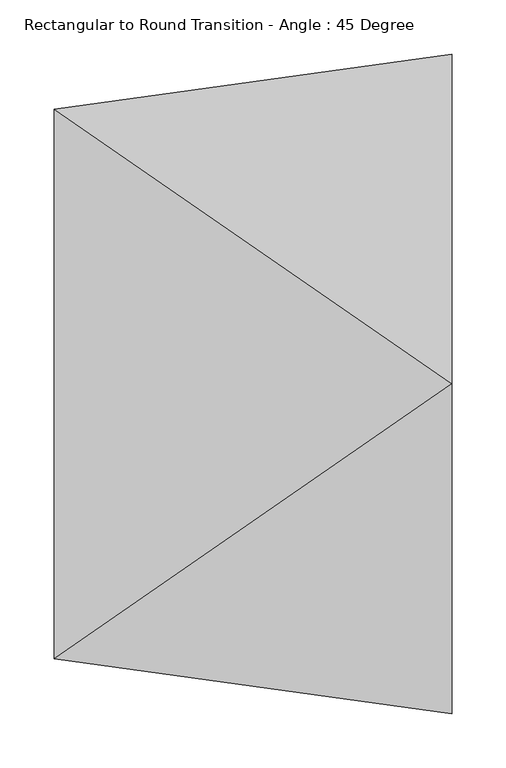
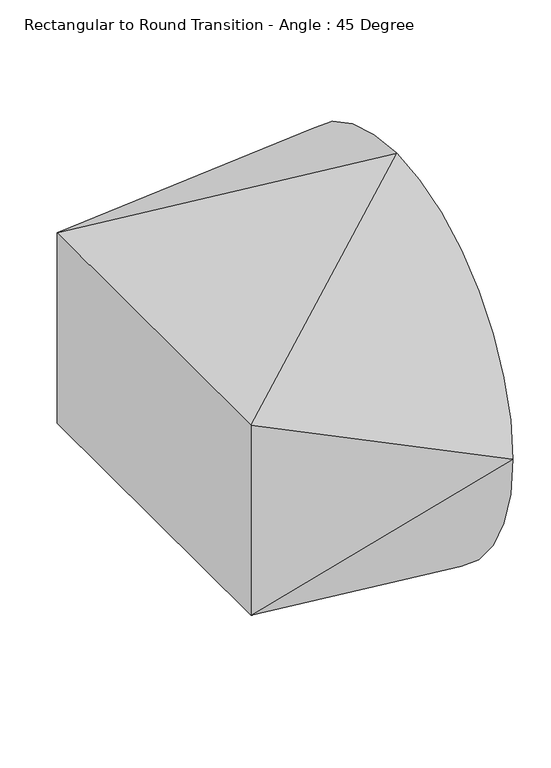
"""IFC4 building model written with IfcOpenShell, lengths in millimetres: duct fitting geometry, Rectangular to Round Transition - Angle : 45 Degree."""

from ifc_helpers import new_model, si_unit, frame, origin, place, context, project, spatial, circle_curve, source, transform, mapped, element, save
from ifc_brep_helpers import plane_surface, spline_surface, advanced_brep


def rectangular_to_round_transition_angle_45_degree_79df833b(model_context):
    return source(origin(), model_context, "Body", "AdvancedBrep", [
        advanced_brep(
        [(367.9261445, 0.0, 304.7680657), (367.9261445, -304.8, -0.0319343), (367.9261445, 0.0, -304.8319343), (367.9261445, 304.8, -0.0319343), (0.0, -254.0, 152.4), (0.0, 254.0, 152.4), (0.0, 254.0, -152.4), (0.0, -254.0, -152.4)],
        [
            (0, 1, circle_curve(frame((367.9261445, 0.0, -0.0319343), z_axis=(1.0, 0.0, 0.0), x_axis=(0.0, 1.0, 0.0)), 304.8)),
            (1, 2, circle_curve(frame((367.9261445, 0.0, -0.0319343), z_axis=(1.0, 0.0, 0.0), x_axis=(0.0, 1.0, 0.0)), 304.8)),
            (2, 3, circle_curve(frame((367.9261445, 0.0, -0.0319343), z_axis=(1.0, 0.0, 0.0), x_axis=(0.0, 1.0, 0.0)), 304.8)),
            (3, 0, circle_curve(frame((367.9261445, 0.0, -0.0319343), z_axis=(1.0, 0.0, 0.0), x_axis=(0.0, 1.0, 0.0)), 304.8)),
            (4, 5),
            (5, 6),
            (6, 7),
            (7, 4),
            (0, 4),
            (4, 1),
            (7, 1),
            (7, 2),
            (6, 2),
            (6, 3),
            (5, 3),
            (5, 0),
        ],
        [
            plane_surface(frame((367.9261445, 0.0, -0.0319343), z_axis=(1.0, 0.0, 0.0), x_axis=(0.0, 0.0, -1.0))),
            plane_surface(frame((0.0, 0.0, 0.0), z_axis=(-1.0, 0.0, 0.0), x_axis=(0.0, 0.0, -1.0))),
            spline_surface(2, 1, [[(0.0, -254.0, 152.4), (367.9261445, 0.0, 304.7680657)], [(0.0, -254.0, 152.4), (367.9261445, -304.8, 304.7680657)], [(0.0, -254.0, 152.4), (367.9261445, -304.8, -0.0319343)]], [3, 3], [2, 2], [0.0, 1.0], [0.0, 1.0], weights=[[1.0, 1.0], [0.7071067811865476, 0.7071067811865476], [1.0, 1.0]]),
            plane_surface(frame((0.0, -254.0, 0.0), z_axis=(-0.13677364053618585, -0.9906023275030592, 0.0), x_axis=(0.0, 0.0, -1.0))),
            spline_surface(2, 1, [[(0.0, -254.0, -152.4), (367.9261445, -304.8, -0.0319343)], [(0.0, -254.0, -152.4), (367.9261445, -304.8, -304.8319343)], [(0.0, -254.0, -152.4), (367.9261445, 0.0, -304.8319343)]], [3, 3], [2, 2], [0.0, 1.0], [0.0, 1.0], weights=[[1.0, 1.0], [0.7071067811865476, 0.7071067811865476], [1.0, 1.0]]),
            plane_surface(frame((0.0, 0.0, -152.4), z_axis=(-0.3827518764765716, 0.0, -0.9238511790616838), x_axis=(0.0, 1.0, 0.0))),
            spline_surface(2, 1, [[(0.0, 254.0, -152.4), (367.9261445, 0.0, -304.8319343)], [(0.0, 254.0, -152.4), (367.9261445, 304.8, -304.8319343)], [(0.0, 254.0, -152.4), (367.9261445, 304.8, -0.0319343)]], [3, 3], [2, 2], [0.0, 1.0], [0.0, 1.0], weights=[[1.0, 1.0], [0.7071067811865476, 0.7071067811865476], [1.0, 1.0]]),
            plane_surface(frame((0.0, 254.0, 0.0), z_axis=(-0.1367736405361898, 0.9906023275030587, 0.0), x_axis=(0.0, 0.0, 1.0))),
            spline_surface(2, 1, [[(0.0, 254.0, 152.4), (367.9261445, 304.8, -0.0319343)], [(0.0, 254.0, 152.4), (367.9261445, 304.8, 304.7680657)], [(0.0, 254.0, 152.4), (367.9261445, 0.0, 304.7680657)]], [3, 3], [2, 2], [0.0, 1.0], [0.0, 1.0], weights=[[1.0, 1.0], [0.7071067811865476, 0.7071067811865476], [1.0, 1.0]]),
            plane_surface(frame((0.0, 0.0, 152.4), z_axis=(-0.3826149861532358, 0.0, 0.9239078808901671), x_axis=(0.0, -1.0, 0.0))),
        ],
        [
            (0, [[1, 2, 3, 4]]),
            (1, [[5, 6, 7, 8]]),
            (2, [[-1, 9, 10]]),
            (3, [[-8, 11, -10]]),
            (4, [[-2, -11, 12]]),
            (5, [[-7, 13, -12]]),
            (6, [[-3, -13, 14]]),
            (7, [[-6, 15, -14]]),
            (8, [[-4, -15, 16]]),
            (9, [[-5, -9, -16]]),
        ],
    ),
    ])


if __name__ == "__main__":
    model = new_model("IFC4")
    model_context = context("Model", 3, world=origin())
    ifc_project = project(units=[si_unit("LENGTHUNIT", "METRE", prefix="MILLI")], contexts=[model_context])
    site = spatial("IfcSite", under=ifc_project)
    building = spatial("IfcBuilding", under=site)
    placement = place(None, origin())
    rectangular_to_round_transition_angle_45_degree_shape = rectangular_to_round_transition_angle_45_degree_79df833b(model_context)
    element("IfcDuctFitting", 1, ObjectType="Rectangular to Round Transition - Angle : 45 Degree", at=placement, inside=building, context=model_context, shape_type="MappedRepresentation", body=[
        mapped(rectangular_to_round_transition_angle_45_degree_shape, transform((0.0, 0.0, 0.0), x_axis=(1.0, 0.0, 0.0), y_axis=(0.0, 1.0, 0.0), z_axis=(0.0, 0.0, 1.0))),
    ])
    save(model, "model.ifc")
